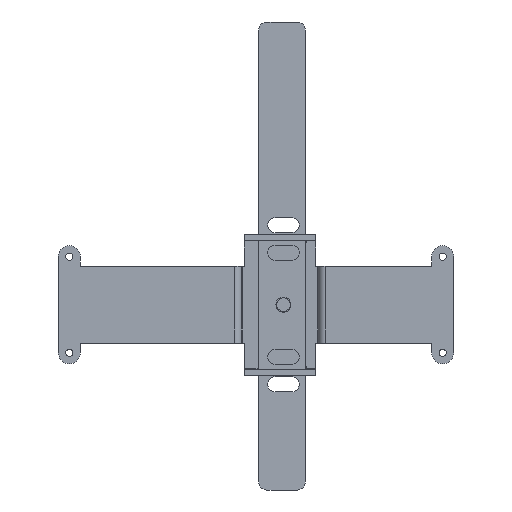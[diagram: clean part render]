
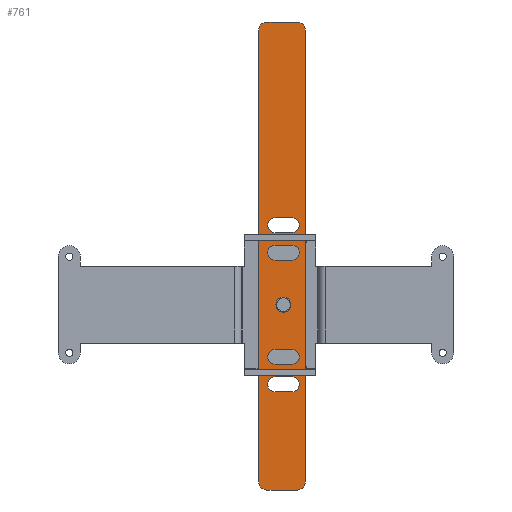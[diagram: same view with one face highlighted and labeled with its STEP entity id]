
A CAD part, front view. The second image highlights one B-rep face of the part: STEP entity #761.
In plain terms, the highlighted planar face has unit normal (0, -1, 0) as drawn and (0, 0, -1) by its records, which use the part's own axes.
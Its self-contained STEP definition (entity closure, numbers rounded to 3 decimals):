
#581=FACE_BOUND('',#1085,.T.);
#582=FACE_BOUND('',#1086,.T.);
#583=FACE_BOUND('',#1087,.T.);
#584=FACE_BOUND('',#1088,.T.);
#585=FACE_BOUND('',#1089,.T.);
#586=FACE_BOUND('',#1090,.T.);
#643=PLANE('',#3252);
#761=ADVANCED_FACE('',(#581,#582,#583,#584,#585,#586),#643,.F.);
#1085=EDGE_LOOP('',(#1809,#1810,#1811,#1812,#1813,#1814,#1815,#1816));
#1086=EDGE_LOOP('',(#1817,#1818));
#1087=EDGE_LOOP('',(#1819,#1820,#1821,#1822));
#1088=EDGE_LOOP('',(#1823,#1824,#1825,#1826));
#1089=EDGE_LOOP('',(#1827,#1828,#1829,#1830));
#1090=EDGE_LOOP('',(#1831,#1832,#1833,#1834));
#1217=CIRCLE('',#3238,3.);
#1218=CIRCLE('',#3239,3.);
#1219=CIRCLE('',#3240,3.);
#1220=CIRCLE('',#3241,3.);
#1221=CIRCLE('',#3242,2.75);
#1222=CIRCLE('',#3243,2.75);
#1223=CIRCLE('',#3244,2.75);
#1224=CIRCLE('',#3245,2.75);
#1225=CIRCLE('',#3246,2.75);
#1226=CIRCLE('',#3247,2.75);
#1227=CIRCLE('',#3248,2.75);
#1228=CIRCLE('',#3249,2.75);
#1229=CIRCLE('',#3250,2.75);
#1230=CIRCLE('',#3251,2.75);
#1809=ORIENTED_EDGE('',*,*,#2485,.F.);
#1810=ORIENTED_EDGE('',*,*,#2486,.T.);
#1811=ORIENTED_EDGE('',*,*,#2487,.F.);
#1812=ORIENTED_EDGE('',*,*,#2488,.T.);
#1813=ORIENTED_EDGE('',*,*,#2489,.F.);
#1814=ORIENTED_EDGE('',*,*,#2490,.T.);
#1815=ORIENTED_EDGE('',*,*,#2491,.F.);
#1816=ORIENTED_EDGE('',*,*,#2492,.T.);
#1817=ORIENTED_EDGE('',*,*,#2493,.F.);
#1818=ORIENTED_EDGE('',*,*,#2494,.F.);
#1819=ORIENTED_EDGE('',*,*,#2495,.F.);
#1820=ORIENTED_EDGE('',*,*,#2496,.F.);
#1821=ORIENTED_EDGE('',*,*,#2497,.F.);
#1822=ORIENTED_EDGE('',*,*,#2498,.F.);
#1823=ORIENTED_EDGE('',*,*,#2499,.F.);
#1824=ORIENTED_EDGE('',*,*,#2500,.F.);
#1825=ORIENTED_EDGE('',*,*,#2501,.F.);
#1826=ORIENTED_EDGE('',*,*,#2502,.F.);
#1827=ORIENTED_EDGE('',*,*,#2503,.F.);
#1828=ORIENTED_EDGE('',*,*,#2504,.F.);
#1829=ORIENTED_EDGE('',*,*,#2505,.F.);
#1830=ORIENTED_EDGE('',*,*,#2506,.F.);
#1831=ORIENTED_EDGE('',*,*,#2507,.F.);
#1832=ORIENTED_EDGE('',*,*,#2508,.F.);
#1833=ORIENTED_EDGE('',*,*,#2509,.F.);
#1834=ORIENTED_EDGE('',*,*,#2510,.F.);
#2151=VERTEX_POINT('',#4628);
#2152=VERTEX_POINT('',#4629);
#2153=VERTEX_POINT('',#4631);
#2154=VERTEX_POINT('',#4633);
#2155=VERTEX_POINT('',#4635);
#2156=VERTEX_POINT('',#4637);
#2157=VERTEX_POINT('',#4639);
#2158=VERTEX_POINT('',#4641);
#2159=VERTEX_POINT('',#4644);
#2160=VERTEX_POINT('',#4645);
#2161=VERTEX_POINT('',#4648);
#2162=VERTEX_POINT('',#4649);
#2163=VERTEX_POINT('',#4651);
#2164=VERTEX_POINT('',#4653);
#2165=VERTEX_POINT('',#4656);
#2166=VERTEX_POINT('',#4657);
#2167=VERTEX_POINT('',#4659);
#2168=VERTEX_POINT('',#4661);
#2169=VERTEX_POINT('',#4664);
#2170=VERTEX_POINT('',#4665);
#2171=VERTEX_POINT('',#4667);
#2172=VERTEX_POINT('',#4669);
#2173=VERTEX_POINT('',#4672);
#2174=VERTEX_POINT('',#4673);
#2175=VERTEX_POINT('',#4675);
#2176=VERTEX_POINT('',#4677);
#2485=EDGE_CURVE('',#2151,#2152,#2751,.T.);
#2486=EDGE_CURVE('',#2151,#2153,#1217,.T.);
#2487=EDGE_CURVE('',#2154,#2153,#2752,.T.);
#2488=EDGE_CURVE('',#2154,#2155,#1218,.T.);
#2489=EDGE_CURVE('',#2156,#2155,#2753,.T.);
#2490=EDGE_CURVE('',#2156,#2157,#1219,.T.);
#2491=EDGE_CURVE('',#2158,#2157,#2754,.T.);
#2492=EDGE_CURVE('',#2158,#2152,#1220,.T.);
#2493=EDGE_CURVE('',#2159,#2160,#1221,.T.);
#2494=EDGE_CURVE('',#2160,#2159,#1222,.T.);
#2495=EDGE_CURVE('',#2161,#2162,#1223,.T.);
#2496=EDGE_CURVE('',#2163,#2161,#2755,.T.);
#2497=EDGE_CURVE('',#2164,#2163,#1224,.T.);
#2498=EDGE_CURVE('',#2162,#2164,#2756,.T.);
#2499=EDGE_CURVE('',#2165,#2166,#1225,.T.);
#2500=EDGE_CURVE('',#2167,#2165,#2757,.T.);
#2501=EDGE_CURVE('',#2168,#2167,#1226,.T.);
#2502=EDGE_CURVE('',#2166,#2168,#2758,.T.);
#2503=EDGE_CURVE('',#2169,#2170,#1227,.T.);
#2504=EDGE_CURVE('',#2171,#2169,#2759,.T.);
#2505=EDGE_CURVE('',#2172,#2171,#1228,.T.);
#2506=EDGE_CURVE('',#2170,#2172,#2760,.T.);
#2507=EDGE_CURVE('',#2173,#2174,#2761,.T.);
#2508=EDGE_CURVE('',#2175,#2173,#1229,.T.);
#2509=EDGE_CURVE('',#2176,#2175,#2762,.T.);
#2510=EDGE_CURVE('',#2174,#2176,#1230,.T.);
#2751=LINE('',#4627,#2989);
#2752=LINE('',#4632,#2990);
#2753=LINE('',#4636,#2991);
#2754=LINE('',#4640,#2992);
#2755=LINE('',#4650,#2993);
#2756=LINE('',#4654,#2994);
#2757=LINE('',#4658,#2995);
#2758=LINE('',#4662,#2996);
#2759=LINE('',#4666,#2997);
#2760=LINE('',#4670,#2998);
#2761=LINE('',#4671,#2999);
#2762=LINE('',#4676,#3000);
#2989=VECTOR('',#3884,1.);
#2990=VECTOR('',#3887,1.);
#2991=VECTOR('',#3890,1.);
#2992=VECTOR('',#3893,1.);
#2993=VECTOR('',#3902,1.);
#2994=VECTOR('',#3905,1.);
#2995=VECTOR('',#3908,1.);
#2996=VECTOR('',#3911,1.);
#2997=VECTOR('',#3914,1.);
#2998=VECTOR('',#3917,1.);
#2999=VECTOR('',#3918,1.);
#3000=VECTOR('',#3921,1.);
#3238=AXIS2_PLACEMENT_3D('',#4630,#3885,#3886);
#3239=AXIS2_PLACEMENT_3D('',#4634,#3888,#3889);
#3240=AXIS2_PLACEMENT_3D('',#4638,#3891,#3892);
#3241=AXIS2_PLACEMENT_3D('',#4642,#3894,#3895);
#3242=AXIS2_PLACEMENT_3D('',#4643,#3896,#3897);
#3243=AXIS2_PLACEMENT_3D('',#4646,#3898,#3899);
#3244=AXIS2_PLACEMENT_3D('',#4647,#3900,#3901);
#3245=AXIS2_PLACEMENT_3D('',#4652,#3903,#3904);
#3246=AXIS2_PLACEMENT_3D('',#4655,#3906,#3907);
#3247=AXIS2_PLACEMENT_3D('',#4660,#3909,#3910);
#3248=AXIS2_PLACEMENT_3D('',#4663,#3912,#3913);
#3249=AXIS2_PLACEMENT_3D('',#4668,#3915,#3916);
#3250=AXIS2_PLACEMENT_3D('',#4674,#3919,#3920);
#3251=AXIS2_PLACEMENT_3D('',#4678,#3922,#3923);
#3252=AXIS2_PLACEMENT_3D('',#4679,#3924,#3925);
#3884=DIRECTION('',(1.,0.,0.));
#3885=DIRECTION('',(0.,0.,-1.));
#3886=DIRECTION('',(0.,-1.,0.));
#3887=DIRECTION('',(0.,-1.,0.));
#3888=DIRECTION('',(0.,0.,-1.));
#3889=DIRECTION('',(-1.,0.,0.));
#3890=DIRECTION('',(-1.,0.,0.));
#3891=DIRECTION('',(0.,0.,-1.));
#3892=DIRECTION('',(0.,1.,0.));
#3893=DIRECTION('',(0.,1.,0.));
#3894=DIRECTION('',(0.,0.,-1.));
#3895=DIRECTION('',(1.,0.,0.));
#3896=DIRECTION('',(0.,0.,-1.));
#3897=DIRECTION('',(-1.,0.,0.));
#3898=DIRECTION('',(0.,0.,-1.));
#3899=DIRECTION('',(1.,0.,0.));
#3900=DIRECTION('',(0.,0.,-1.));
#3901=DIRECTION('',(0.,-1.,0.));
#3902=DIRECTION('',(-1.,0.,0.));
#3903=DIRECTION('',(0.,0.,-1.));
#3904=DIRECTION('',(0.,1.,0.));
#3905=DIRECTION('',(1.,0.,0.));
#3906=DIRECTION('',(0.,0.,-1.));
#3907=DIRECTION('',(0.,-1.,0.));
#3908=DIRECTION('',(-1.,0.,0.));
#3909=DIRECTION('',(0.,0.,-1.));
#3910=DIRECTION('',(0.,1.,0.));
#3911=DIRECTION('',(1.,0.,0.));
#3912=DIRECTION('',(0.,0.,-1.));
#3913=DIRECTION('',(0.,-1.,0.));
#3914=DIRECTION('',(-1.,0.,0.));
#3915=DIRECTION('',(0.,0.,-1.));
#3916=DIRECTION('',(0.,1.,0.));
#3917=DIRECTION('',(1.,0.,0.));
#3918=DIRECTION('',(-1.,0.,0.));
#3919=DIRECTION('',(0.,0.,-1.));
#3920=DIRECTION('',(0.,1.,0.));
#3921=DIRECTION('',(1.,0.,0.));
#3922=DIRECTION('',(0.,0.,-1.));
#3923=DIRECTION('',(0.,-1.,0.));
#3924=DIRECTION('',(0.,0.,1.));
#3925=DIRECTION('',(-1.,0.,0.));
#4627=CARTESIAN_POINT('',(3.,0.,0.));
#4628=CARTESIAN_POINT('',(4.,0.,0.));
#4629=CARTESIAN_POINT('',(15.,0.,0.));
#4630=CARTESIAN_POINT('',(4.,3.,0.));
#4631=CARTESIAN_POINT('',(1.,3.,0.));
#4632=CARTESIAN_POINT('',(1.,167.5,0.));
#4633=CARTESIAN_POINT('',(1.,167.5,0.));
#4634=CARTESIAN_POINT('',(4.,167.5,0.));
#4635=CARTESIAN_POINT('',(4.,170.5,0.));
#4636=CARTESIAN_POINT('',(15.,170.5,0.));
#4637=CARTESIAN_POINT('',(15.,170.5,0.));
#4638=CARTESIAN_POINT('',(15.,167.5,0.));
#4639=CARTESIAN_POINT('',(18.,167.5,0.));
#4640=CARTESIAN_POINT('',(18.,3.,0.));
#4641=CARTESIAN_POINT('',(18.,3.,0.));
#4642=CARTESIAN_POINT('',(15.,3.,0.));
#4643=CARTESIAN_POINT('',(9.,67.5,0.));
#4644=CARTESIAN_POINT('',(6.25,67.5,0.));
#4645=CARTESIAN_POINT('',(11.75,67.5,0.));
#4646=CARTESIAN_POINT('',(9.,67.5,0.));
#4647=CARTESIAN_POINT('',(6.,86.5,0.));
#4648=CARTESIAN_POINT('',(6.,83.75,0.));
#4649=CARTESIAN_POINT('',(6.,89.25,0.));
#4650=CARTESIAN_POINT('',(12.,83.75,0.));
#4651=CARTESIAN_POINT('',(12.,83.75,0.));
#4652=CARTESIAN_POINT('',(12.,86.5,0.));
#4653=CARTESIAN_POINT('',(12.,89.25,0.));
#4654=CARTESIAN_POINT('',(6.,89.25,0.));
#4655=CARTESIAN_POINT('',(6.,48.5,0.));
#4656=CARTESIAN_POINT('',(6.,45.75,0.));
#4657=CARTESIAN_POINT('',(6.,51.25,0.));
#4658=CARTESIAN_POINT('',(12.,45.75,0.));
#4659=CARTESIAN_POINT('',(12.,45.75,0.));
#4660=CARTESIAN_POINT('',(12.,48.5,0.));
#4661=CARTESIAN_POINT('',(12.,51.25,0.));
#4662=CARTESIAN_POINT('',(6.,51.25,0.));
#4663=CARTESIAN_POINT('',(6.,38.5,0.));
#4664=CARTESIAN_POINT('',(6.,35.75,0.));
#4665=CARTESIAN_POINT('',(6.,41.25,0.));
#4666=CARTESIAN_POINT('',(12.,35.75,0.));
#4667=CARTESIAN_POINT('',(12.,35.75,0.));
#4668=CARTESIAN_POINT('',(12.,38.5,0.));
#4669=CARTESIAN_POINT('',(12.,41.25,0.));
#4670=CARTESIAN_POINT('',(6.,41.25,0.));
#4671=CARTESIAN_POINT('',(12.,93.75,0.));
#4672=CARTESIAN_POINT('',(12.,93.75,0.));
#4673=CARTESIAN_POINT('',(6.,93.75,0.));
#4674=CARTESIAN_POINT('',(12.,96.5,0.));
#4675=CARTESIAN_POINT('',(12.,99.25,0.));
#4676=CARTESIAN_POINT('',(6.,99.25,0.));
#4677=CARTESIAN_POINT('',(6.,99.25,0.));
#4678=CARTESIAN_POINT('',(6.,96.5,0.));
#4679=CARTESIAN_POINT('',(0.,0.,0.));
